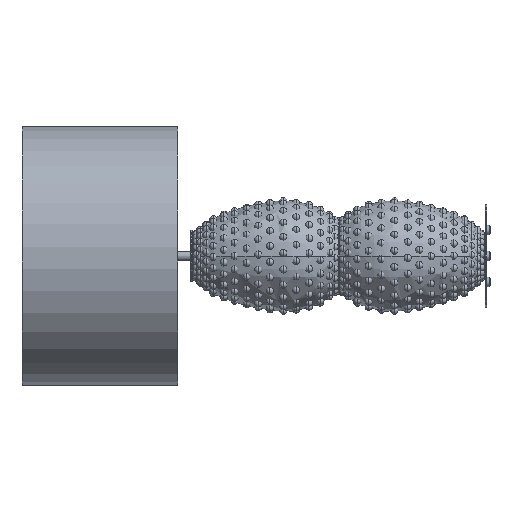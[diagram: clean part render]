
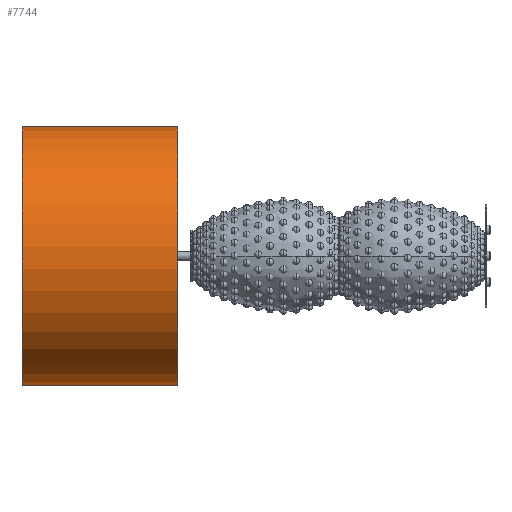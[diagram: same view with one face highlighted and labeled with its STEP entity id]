
A CAD part, left-side view. The second image highlights one B-rep face of the part: STEP entity #7744.
In plain terms, the highlighted cylindrical face has radius 200 mm (diameter 400 mm), a partial arc.
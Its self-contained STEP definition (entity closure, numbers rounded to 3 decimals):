
#1678 = CARTESIAN_POINT ( 'NONE',  ( -175.634, 333.655, -211.858 ) ) ;
#2782 = CARTESIAN_POINT ( 'NONE',  ( -146.593, 71.655, 187.086 ) ) ;
#6426 = AXIS2_PLACEMENT_3D ( 'NONE', #43250, #21575, #52073 ) ;
#6773 = EDGE_LOOP ( 'NONE', ( #45787, #47381, #37474, #11297 ) ) ;
#7744 = ADVANCED_FACE ( 'NONE', ( #46281 ), #38735, .T. ) ;
#7849 = VERTEX_POINT ( 'NONE', #57061 ) ;
#8759 = EDGE_CURVE ( 'NONE', #13210, #7849, #46919, .T. ) ;
#9397 = LINE ( 'NONE', #2782, #54771 ) ;
#11294 = CARTESIAN_POINT ( 'NONE',  ( -146.593, 333.655, 187.086 ) ) ;
#11297 = ORIENTED_EDGE ( 'NONE', *, *, #20966, .F. ) ;
#13210 = VERTEX_POINT ( 'NONE', #1678 ) ;
#15156 = CARTESIAN_POINT ( 'NONE',  ( -161.113, 333.655, -12.386 ) ) ;
#19409 = DIRECTION ( 'NONE',  ( -0.073, 0., -0.997 ) ) ;
#20205 = DIRECTION ( 'NONE',  ( 0., -1., 0. ) ) ;
#20475 = VERTEX_POINT ( 'NONE', #43832 ) ;
#20966 = EDGE_CURVE ( 'NONE', #20475, #7849, #54585, .T. ) ;
#21575 = DIRECTION ( 'NONE',  ( 0., -1., 0. ) ) ;
#23851 = CARTESIAN_POINT ( 'NONE',  ( -175.634, 71.655, -211.858 ) ) ;
#25685 = VERTEX_POINT ( 'NONE', #11294 ) ;
#28238 = AXIS2_PLACEMENT_3D ( 'NONE', #47208, #47769, #47955 ) ;
#29398 = EDGE_CURVE ( 'NONE', #25685, #20475, #9397, .T. ) ;
#32948 = DIRECTION ( 'NONE',  ( 0., -1., 0. ) ) ;
#35399 = CIRCLE ( 'NONE', #43149, 200. ) ;
#37474 = ORIENTED_EDGE ( 'NONE', *, *, #8759, .T. ) ;
#38735 = CYLINDRICAL_SURFACE ( 'NONE', #6426, 200. ) ;
#42635 = DIRECTION ( 'NONE',  ( 0., -1., 0. ) ) ;
#43149 = AXIS2_PLACEMENT_3D ( 'NONE', #15156, #32948, #19409 ) ;
#43250 = CARTESIAN_POINT ( 'NONE',  ( -161.113, 71.655, -12.386 ) ) ;
#43832 = CARTESIAN_POINT ( 'NONE',  ( -146.593, 93.655, 187.086 ) ) ;
#45787 = ORIENTED_EDGE ( 'NONE', *, *, #29398, .F. ) ;
#46281 = FACE_OUTER_BOUND ( 'NONE', #6773, .T. ) ;
#46919 = LINE ( 'NONE', #23851, #48300 ) ;
#47208 = CARTESIAN_POINT ( 'NONE',  ( -161.113, 93.655, -12.386 ) ) ;
#47381 = ORIENTED_EDGE ( 'NONE', *, *, #54303, .T. ) ;
#47769 = DIRECTION ( 'NONE',  ( 0., -1., 0. ) ) ;
#47955 = DIRECTION ( 'NONE',  ( -0.073, 0., -0.997 ) ) ;
#48300 = VECTOR ( 'NONE', #20205, 1000. ) ;
#52073 = DIRECTION ( 'NONE',  ( -0.073, 0., -0.997 ) ) ;
#54303 = EDGE_CURVE ( 'NONE', #25685, #13210, #35399, .T. ) ;
#54585 = CIRCLE ( 'NONE', #28238, 200. ) ;
#54771 = VECTOR ( 'NONE', #42635, 1000. ) ;
#57061 = CARTESIAN_POINT ( 'NONE',  ( -175.634, 93.655, -211.858 ) ) ;
